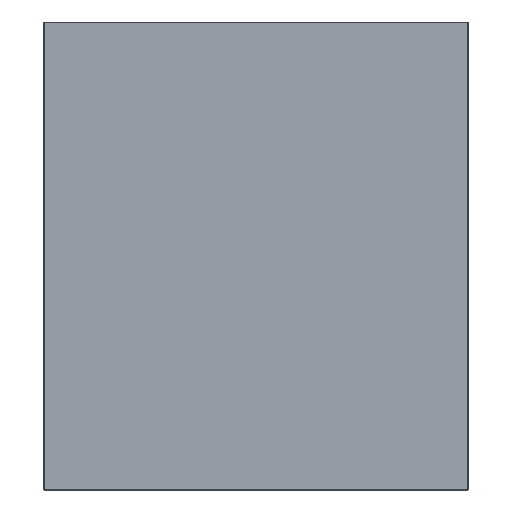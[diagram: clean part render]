
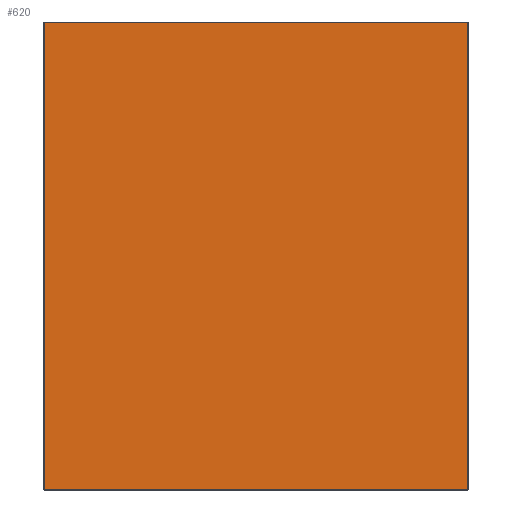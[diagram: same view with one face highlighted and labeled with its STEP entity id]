
A CAD part, front view. The second image highlights one B-rep face of the part: STEP entity #620.
In plain terms, the highlighted planar face has unit normal (0, -1, 0).
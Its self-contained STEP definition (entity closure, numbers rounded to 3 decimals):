
#9 = VERTEX_POINT ( 'NONE', #95 ) ;
#21 = ORIENTED_EDGE ( 'NONE', *, *, #433, .T. ) ;
#23 = DIRECTION ( 'NONE',  ( -1., 0., 0. ) ) ;
#25 = CARTESIAN_POINT ( 'NONE',  ( 0., 0., 272. ) ) ;
#33 = DIRECTION ( 'NONE',  ( 0., 1., 0. ) ) ;
#58 = LINE ( 'NONE', #338, #85 ) ;
#65 = VECTOR ( 'NONE', #23, 1000. ) ;
#83 = ORIENTED_EDGE ( 'NONE', *, *, #543, .T. ) ;
#85 = VECTOR ( 'NONE', #434, 1000. ) ;
#88 = ORIENTED_EDGE ( 'NONE', *, *, #129, .T. ) ;
#95 = CARTESIAN_POINT ( 'NONE',  ( 247., 0., -272. ) ) ;
#121 = EDGE_LOOP ( 'NONE', ( #88, #470, #83, #21 ) ) ;
#129 = EDGE_CURVE ( 'NONE', #9, #264, #632, .T. ) ;
#137 = VECTOR ( 'NONE', #206, 1000. ) ;
#146 = DIRECTION ( 'NONE',  ( 0., 0., 1. ) ) ;
#197 = CARTESIAN_POINT ( 'NONE',  ( 247., 0., 272. ) ) ;
#206 = DIRECTION ( 'NONE',  ( 1., 0., 0. ) ) ;
#223 = PLANE ( 'NONE',  #458 ) ;
#264 = VERTEX_POINT ( 'NONE', #197 ) ;
#268 = LINE ( 'NONE', #301, #137 ) ;
#290 = VERTEX_POINT ( 'NONE', #396 ) ;
#301 = CARTESIAN_POINT ( 'NONE',  ( 0., 0., -272. ) ) ;
#338 = CARTESIAN_POINT ( 'NONE',  ( -247., 0., 0. ) ) ;
#371 = CARTESIAN_POINT ( 'NONE',  ( 0., 0., 0. ) ) ;
#396 = CARTESIAN_POINT ( 'NONE',  ( -247., 0., -272. ) ) ;
#433 = EDGE_CURVE ( 'NONE', #290, #9, #268, .T. ) ;
#434 = DIRECTION ( 'NONE',  ( 0., 0., -1. ) ) ;
#448 = FACE_OUTER_BOUND ( 'NONE', #121, .T. ) ;
#458 = AXIS2_PLACEMENT_3D ( 'NONE', #371, #33, #146 ) ;
#470 = ORIENTED_EDGE ( 'NONE', *, *, #521, .T. ) ;
#517 = CARTESIAN_POINT ( 'NONE',  ( 247., 0., 0. ) ) ;
#521 = EDGE_CURVE ( 'NONE', #264, #577, #546, .T. ) ;
#543 = EDGE_CURVE ( 'NONE', #577, #290, #58, .T. ) ;
#546 = LINE ( 'NONE', #25, #65 ) ;
#577 = VERTEX_POINT ( 'NONE', #641 ) ;
#620 = ADVANCED_FACE ( 'NONE', ( #448 ), #223, .F. ) ;
#632 = LINE ( 'NONE', #517, #638 ) ;
#638 = VECTOR ( 'NONE', #646, 1000. ) ;
#641 = CARTESIAN_POINT ( 'NONE',  ( -247., 0., 272. ) ) ;
#646 = DIRECTION ( 'NONE',  ( 0., 0., 1. ) ) ;
